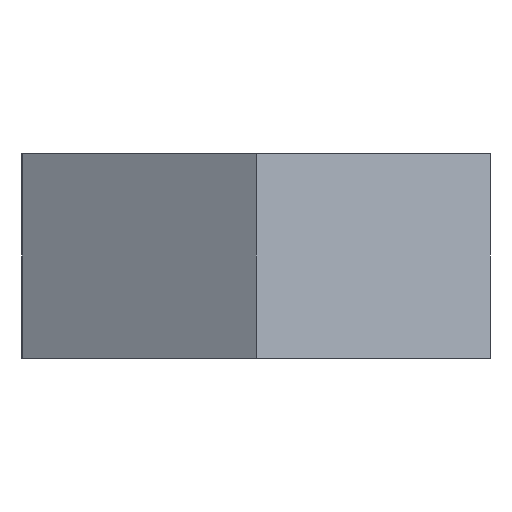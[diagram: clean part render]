
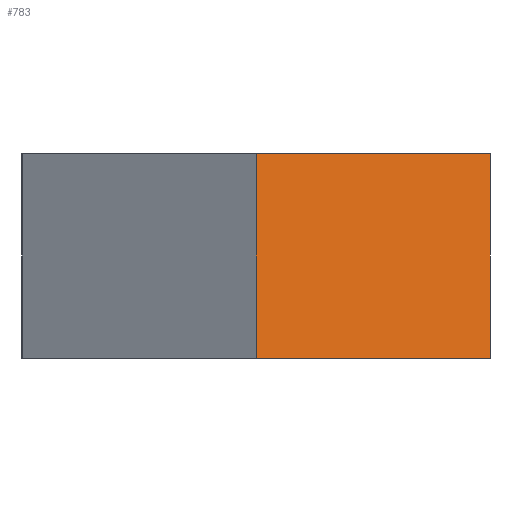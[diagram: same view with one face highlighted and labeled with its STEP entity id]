
A CAD part, left-side view. The second image highlights one B-rep face of the part: STEP entity #783.
In plain terms, the highlighted planar face has unit normal (-0.866, -0.5, 0).
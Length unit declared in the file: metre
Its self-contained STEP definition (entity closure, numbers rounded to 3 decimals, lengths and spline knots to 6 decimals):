
#47 = VECTOR ( 'NONE', #911, 1. ) ;
#124 = CARTESIAN_POINT ( 'NONE',  ( -0.003175, 0., -0.0024 ) ) ;
#133 = EDGE_CURVE ( 'NONE', #137, #1386, #1301, .T. ) ;
#137 = VERTEX_POINT ( 'NONE', #124 ) ;
#180 = ORIENTED_EDGE ( 'NONE', *, *, #529, .T. ) ;
#186 = CARTESIAN_POINT ( 'NONE',  ( -0.001588, -0.00275, -0.0024 ) ) ;
#194 = CARTESIAN_POINT ( 'NONE',  ( -0.001588, -0.00275, -0.0024 ) ) ;
#236 = DIRECTION ( 'NONE',  ( -0.866, -0.5, 0. ) ) ;
#370 = CARTESIAN_POINT ( 'NONE',  ( -0.003175, 0., -0.0024 ) ) ;
#429 = ORIENTED_EDGE ( 'NONE', *, *, #671, .F. ) ;
#438 = CARTESIAN_POINT ( 'NONE',  ( -0.001588, -0.00275, 0. ) ) ;
#476 = CARTESIAN_POINT ( 'NONE',  ( -0.003175, 0., -0.0024 ) ) ;
#505 = DIRECTION ( 'NONE',  ( 0.5, -0.866, 0. ) ) ;
#529 = EDGE_CURVE ( 'NONE', #137, #888, #649, .T. ) ;
#578 = CARTESIAN_POINT ( 'NONE',  ( -0.003175, 0., 0. ) ) ;
#643 = VECTOR ( 'NONE', #505, 1. ) ;
#649 = LINE ( 'NONE', #872, #643 ) ;
#657 = DIRECTION ( 'NONE',  ( 0.5, -0.866, 0. ) ) ;
#671 = EDGE_CURVE ( 'NONE', #1386, #1154, #1228, .T. ) ;
#685 = EDGE_LOOP ( 'NONE', ( #429, #771, #180, #834 ) ) ;
#701 = DIRECTION ( 'NONE',  ( 0., 0., 1. ) ) ;
#716 = CARTESIAN_POINT ( 'NONE',  ( -0.003175, 0., 0. ) ) ;
#754 = AXIS2_PLACEMENT_3D ( 'NONE', #370, #236, #657 ) ;
#761 = PLANE ( 'NONE',  #754 ) ;
#771 = ORIENTED_EDGE ( 'NONE', *, *, #133, .F. ) ;
#783 = ADVANCED_FACE ( 'NONE', ( #904 ), #761, .T. ) ;
#809 = LINE ( 'NONE', #186, #1230 ) ;
#834 = ORIENTED_EDGE ( 'NONE', *, *, #965, .T. ) ;
#872 = CARTESIAN_POINT ( 'NONE',  ( -0.003175, 0., -0.0024 ) ) ;
#884 = DIRECTION ( 'NONE',  ( 0., 0., 1. ) ) ;
#888 = VERTEX_POINT ( 'NONE', #194 ) ;
#904 = FACE_OUTER_BOUND ( 'NONE', #685, .T. ) ;
#911 = DIRECTION ( 'NONE',  ( 0.5, -0.866, 0. ) ) ;
#947 = VECTOR ( 'NONE', #884, 1. ) ;
#965 = EDGE_CURVE ( 'NONE', #888, #1154, #809, .T. ) ;
#1154 = VERTEX_POINT ( 'NONE', #438 ) ;
#1228 = LINE ( 'NONE', #578, #47 ) ;
#1230 = VECTOR ( 'NONE', #701, 1. ) ;
#1301 = LINE ( 'NONE', #476, #947 ) ;
#1386 = VERTEX_POINT ( 'NONE', #716 ) ;
